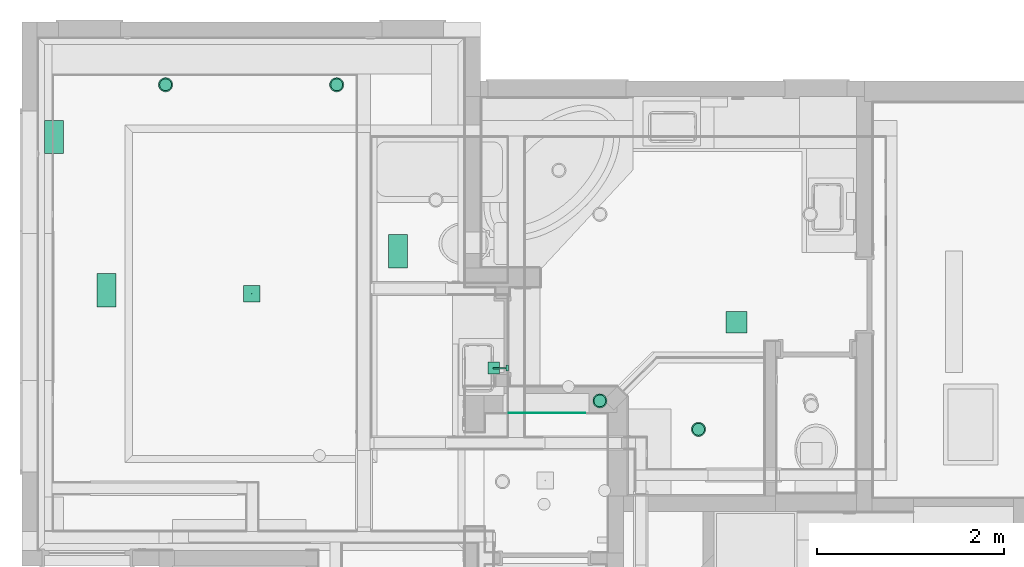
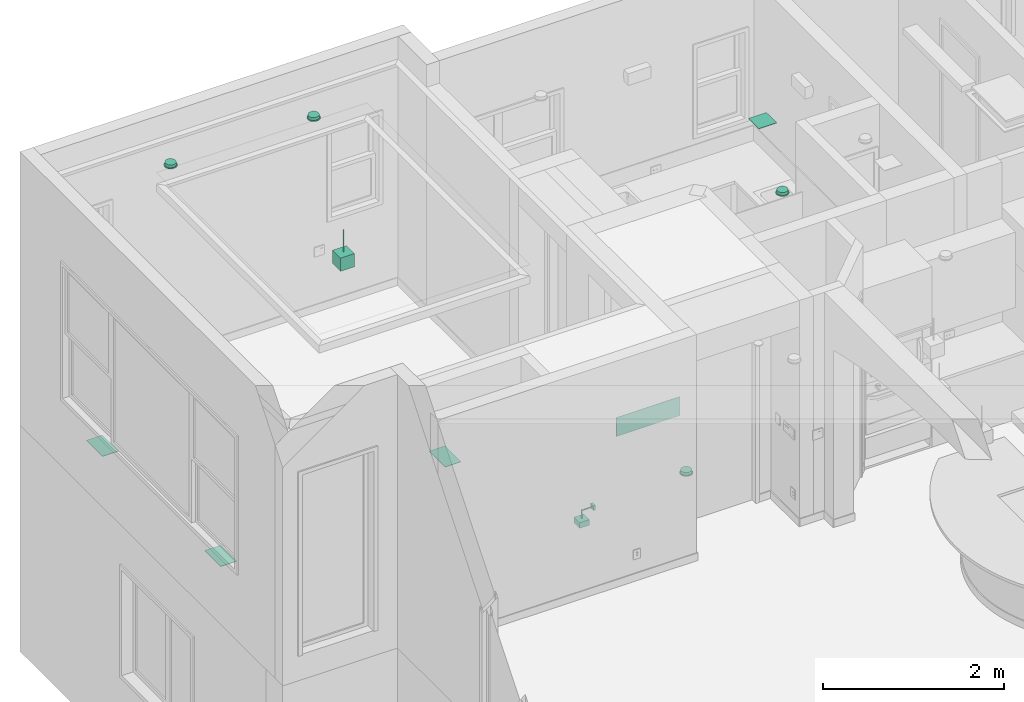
# One storey, part 40 of 60: 11 flow terminals.
"""IFC2X3 building model written with IfcOpenShell, lengths in feet."""

from ifc_helpers import new_model, entity, si_unit, converted_unit, direction, frame, frame_2d, origin, origin_2d_with_axis, place, context, subcontext, project, spatial, rectangle, extrude, faceted_brep, source, transform, mapped, material, material_list, type_object, type_shapes, element, save


model = new_model("IFC2X3")

# Units and contexts
model_context = context("Model", 3, precision=0.0001, world=origin(), true_north=direction((6.123031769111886e-17, 1.0)))
plan_context = context("Plan", 3, precision=0.0001, world=origin(), true_north=direction((6.123031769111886e-17, 1.0)))
body_context = subcontext(model_context, "Body", "Model", "MODEL_VIEW")
ifc_project = project(units=[converted_unit("LENGTHUNIT", "FOOT", entity("IfcLengthMeasure", 0.3048), si_unit("LENGTHUNIT", "METRE"), dimensions=[1, 0, 0, 0, 0, 0, 0]), converted_unit("AREAUNIT", "SQUARE FOOT", entity("IfcAreaMeasure", 0.09290304), si_unit("AREAUNIT", "SQUARE_METRE"), dimensions=[2, 0, 0, 0, 0, 0, 0]), converted_unit("PLANEANGLEUNIT", "DEGREE", entity("IfcPlaneAngleMeasure", 0.017453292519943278), si_unit("PLANEANGLEUNIT", "RADIAN"), dimensions=[0, 0, 0, 0, 0, 0, 0])], contexts=[model_context, plan_context])

# Site, building, storey
site_placement = place(None, origin())
site = spatial("IfcSite", under=ifc_project, at=site_placement, Name="Default", CompositionType="ELEMENT")
building_placement = place(site_placement, origin())
building = spatial("IfcBuilding", under=site, at=building_placement, CompositionType="ELEMENT")
storey_placement = place(building_placement, origin())
storey = spatial("IfcBuildingStorey", under=building, at=storey_placement, Name="First floor", CompositionType="ELEMENT", Elevation=0.0)

# Flow terminals
ifc_material_1 = material(Name="Default New Material")
ifc_material_2 = material(Name="Glass, White, High Luminance")
ifc_material_list = material_list([ifc_material_1, ifc_material_2])
light_fixture_type_1 = type_object("IfcLightFixtureType", Name="C_Spotlight Recessed:Light 2", PredefinedType="NOTDEFINED", material=ifc_material_list)
shared_shape_1 = source(origin(), body_context, "Body", "Brep", [
    faceted_brep([(-0.12499999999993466, 0.21650635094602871, 0.020833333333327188), (-0.17677669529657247, 0.17677669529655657, 0.020833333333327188), (-0.08333333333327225, 0.14433756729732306, 0.020833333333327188), (-0.04313650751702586, 0.1609876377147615, 0.020833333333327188), (-0.0647047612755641, 0.24148145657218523, 0.020833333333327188), (-0.11785113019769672, 0.11785113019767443, 0.020833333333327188), (-0.21650635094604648, 0.12499999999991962, 0.020833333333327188), (-0.1443375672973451, 0.08333333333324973, 0.020833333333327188), (-0.16098763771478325, 0.04313650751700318, 0.020833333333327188), (-0.2414814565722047, 0.06470476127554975, 0.020833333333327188), (-0.166666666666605, 0.0, 0.020833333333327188), (-0.24999999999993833, 0.0, 0.020833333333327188), (-0.16098763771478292, -0.043136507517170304, 0.020833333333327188), (-0.24148145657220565, -0.06470476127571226, 0.020833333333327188), (-0.14433756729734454, -0.08333333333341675, 0.020833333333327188), (-0.2165063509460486, -0.12500000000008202, 0.020833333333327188), (-0.117851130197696, -0.11785113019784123, 0.020833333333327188), (-0.1767766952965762, -0.17677669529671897, 0.020833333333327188), (-0.08333333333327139, -0.14433756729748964, 0.020833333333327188), (-0.12499999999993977, -0.21650635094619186, 0.020833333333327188), (-0.04313650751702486, -0.16098763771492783, 0.020833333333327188), (-0.06470476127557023, -0.24148145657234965, 0.020833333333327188), (0.0, -0.1666666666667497, 0.020833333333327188), (0.0, -0.25000000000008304, 0.020833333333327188), (0.04313650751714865, -0.1609876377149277, 0.020833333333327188), (0.06470476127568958, -0.24148145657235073, 0.020833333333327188), (0.08333333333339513, -0.1443375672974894, 0.020833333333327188), (0.12500000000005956, -0.21650635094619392, 0.020833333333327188), (0.11785113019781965, -0.11785113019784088, 0.020833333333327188), (0.1767766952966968, -0.1767766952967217, 0.020833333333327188), (0.14433756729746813, -0.0833333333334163, 0.020833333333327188), (0.21650635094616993, -0.12500000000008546, 0.020833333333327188), (0.24148145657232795, -0.06470476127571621, 0.020833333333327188), (0.16098763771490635, -0.0431365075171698, 0.020833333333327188), (0.2500000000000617, 0.0, 0.020833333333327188), (0.1666666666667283, 0.0, 0.020833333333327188), (0.24148145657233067, 0.06470476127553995, 0.020833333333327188), (0.16098763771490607, 0.04313650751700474, 0.020833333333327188), (0.21650635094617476, 0.12499999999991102, 0.020833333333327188), (0.14433756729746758, 0.08333333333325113, 0.020833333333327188), (0.17677669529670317, 0.17677669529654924, 0.020833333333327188), (0.1178511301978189, 0.11785113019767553, 0.020833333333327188), (0.1250000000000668, 0.21650635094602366, 0.020833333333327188), (0.08333333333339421, 0.14433756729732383, 0.020833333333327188), (0.06470476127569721, 0.2414814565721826, 0.020833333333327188), (0.04313650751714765, 0.16098763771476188, 0.020833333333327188), (0.0, 0.24999999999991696, 0.020833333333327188), (0.0, 0.1666666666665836, 0.020833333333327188), (-0.12499999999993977, -0.21650635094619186, 0.0), (-0.1767766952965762, -0.17677669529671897, 0.0), (-0.08333333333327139, -0.14433756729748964, 0.0), (-0.04313650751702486, -0.16098763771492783, 0.0), (-0.06470476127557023, -0.24148145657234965, 0.0), (-0.117851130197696, -0.11785113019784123, 0.0), (-0.2165063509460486, -0.12500000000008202, 0.0), (-0.14433756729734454, -0.08333333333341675, 0.0), (-0.16098763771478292, -0.043136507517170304, 0.0), (-0.24148145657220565, -0.06470476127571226, 0.0), (-0.166666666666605, 0.0, 0.0), (-0.24999999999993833, 0.0, 0.0), (-0.16098763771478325, 0.04313650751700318, 0.0), (-0.2414814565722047, 0.06470476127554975, 0.0), (-0.1443375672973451, 0.08333333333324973, 0.0), (-0.21650635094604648, 0.12499999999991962, 0.0), (-0.11785113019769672, 0.11785113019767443, 0.0), (-0.17677669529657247, 0.17677669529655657, 0.0), (-0.08333333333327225, 0.14433756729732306, 0.0), (-0.12499999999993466, 0.21650635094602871, 0.0), (-0.04313650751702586, 0.1609876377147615, 0.0), (-0.0647047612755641, 0.24148145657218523, 0.0), (0.0, 0.1666666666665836, 0.0), (0.0, 0.24999999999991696, 0.0), (0.04313650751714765, 0.16098763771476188, 0.0), (0.06470476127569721, 0.2414814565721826, 0.0), (0.08333333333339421, 0.14433756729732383, 0.0), (0.1250000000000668, 0.21650635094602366, 0.0), (0.1178511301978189, 0.11785113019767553, 0.0), (0.17677669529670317, 0.17677669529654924, 0.0), (0.14433756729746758, 0.08333333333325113, 0.0), (0.21650635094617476, 0.12499999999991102, 0.0), (0.24148145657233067, 0.06470476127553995, 0.0), (0.16098763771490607, 0.04313650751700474, 0.0), (0.2500000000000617, 0.0, 0.0), (0.1666666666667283, 0.0, 0.0), (0.24148145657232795, -0.06470476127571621, 0.0), (0.16098763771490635, -0.0431365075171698, 0.0), (0.21650635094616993, -0.12500000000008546, 0.0), (0.14433756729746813, -0.0833333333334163, 0.0), (0.1767766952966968, -0.1767766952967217, 0.0), (0.11785113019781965, -0.11785113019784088, 0.0), (0.12500000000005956, -0.21650635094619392, 0.0), (0.08333333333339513, -0.1443375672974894, 0.0), (0.06470476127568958, -0.24148145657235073, 0.0), (0.04313650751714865, -0.1609876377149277, 0.0), (0.0, -0.25000000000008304, 0.0), (0.0, -0.1666666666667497, 0.0)], [[[0, 1, 2]], [[0, 2, 3]], [[3, 4, 0]], [[2, 1, 5]], [[6, 5, 1]], [[7, 5, 6]], [[8, 7, 6]], [[8, 6, 9]], [[8, 9, 10]], [[10, 9, 11]], [[12, 10, 11]], [[12, 11, 13]], [[14, 12, 13]], [[14, 13, 15]], [[16, 14, 15]], [[15, 17, 16]], [[17, 18, 16]], [[18, 17, 19]], [[18, 19, 20]], [[21, 20, 19]], [[20, 21, 22]], [[22, 21, 23]], [[23, 24, 22]], [[24, 23, 25]], [[24, 25, 26]], [[27, 26, 25]], [[27, 28, 26]], [[27, 29, 28]], [[30, 28, 29]], [[31, 30, 29]], [[32, 30, 31]], [[33, 30, 32]], [[33, 32, 34]], [[34, 35, 33]], [[36, 35, 34]], [[36, 37, 35]], [[37, 36, 38]], [[39, 37, 38]], [[39, 38, 40]], [[39, 40, 41]], [[40, 42, 41]], [[41, 42, 43]], [[43, 42, 44]], [[44, 45, 43]], [[46, 45, 44]], [[4, 47, 46]], [[45, 46, 47]], [[4, 3, 47]], [[48, 49, 50]], [[48, 50, 51]], [[51, 52, 48]], [[50, 49, 53]], [[54, 53, 49]], [[55, 53, 54]], [[56, 55, 54]], [[56, 54, 57]], [[56, 57, 58]], [[58, 57, 59]], [[60, 58, 59]], [[60, 59, 61]], [[62, 60, 61]], [[62, 61, 63]], [[64, 62, 63]], [[63, 65, 64]], [[65, 66, 64]], [[66, 65, 67]], [[66, 67, 68]], [[69, 68, 67]], [[68, 69, 70]], [[70, 69, 71]], [[71, 72, 70]], [[72, 71, 73]], [[72, 73, 74]], [[75, 74, 73]], [[75, 76, 74]], [[75, 77, 76]], [[78, 76, 77]], [[79, 78, 77]], [[80, 78, 79]], [[81, 78, 80]], [[81, 80, 82]], [[82, 83, 81]], [[84, 83, 82]], [[84, 85, 83]], [[85, 84, 86]], [[87, 85, 86]], [[87, 86, 88]], [[87, 88, 89]], [[88, 90, 89]], [[89, 90, 91]], [[91, 90, 92]], [[92, 93, 91]], [[94, 93, 92]], [[52, 95, 94]], [[93, 94, 95]], [[52, 51, 95]], [[10, 58, 60, 8]], [[8, 60, 62, 7]], [[2, 5, 64, 66]], [[62, 64, 5, 7]], [[3, 2, 66, 68]], [[70, 47, 3, 68]], [[45, 72, 74, 43]], [[43, 74, 76, 41]], [[37, 39, 78, 81]], [[76, 78, 39, 41]], [[35, 37, 81, 83]], [[45, 47, 70, 72]], [[35, 83, 85, 33]], [[33, 85, 87, 30]], [[26, 28, 89, 91]], [[87, 89, 28, 30]], [[24, 26, 91, 93]], [[95, 22, 24, 93]], [[20, 51, 50, 18]], [[18, 50, 53, 16]], [[12, 14, 55, 56]], [[53, 55, 14, 16]], [[10, 12, 56, 58]], [[20, 22, 95, 51]], [[57, 13, 11, 59]], [[54, 15, 13, 57]], [[19, 17, 49, 48]], [[54, 49, 17, 15]], [[21, 19, 48, 52]], [[23, 21, 52, 94]], [[92, 25, 23, 94]], [[90, 27, 25, 92]], [[31, 29, 88, 86]], [[90, 88, 29, 27]], [[32, 31, 86, 84]], [[34, 32, 84, 82]], [[80, 36, 34, 82]], [[79, 38, 36, 80]], [[42, 40, 77, 75]], [[79, 77, 40, 38]], [[44, 42, 75, 73]], [[46, 44, 73, 71]], [[69, 4, 46, 71]], [[67, 0, 4, 69]], [[6, 1, 65, 63]], [[67, 65, 1, 0]], [[9, 6, 63, 61]], [[11, 9, 61, 59]]]),
    faceted_brep([(0.043136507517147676, -0.160987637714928, 0.020833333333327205), (0.08333333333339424, -0.14433756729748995, 0.020833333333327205), (0.11785113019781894, -0.11785113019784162, 0.020833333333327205), (0.14433756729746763, -0.08333333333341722, 0.020833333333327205), (0.16098763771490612, -0.043136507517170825, 0.020833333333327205), (0.16666666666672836, 0.0, 0.020833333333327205), (0.1609876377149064, 0.04313650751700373, 0.020833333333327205), (0.1443375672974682, 0.08333333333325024, 0.020833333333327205), (0.11785113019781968, 0.11785113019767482, 0.020833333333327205), (0.08333333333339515, 0.14433756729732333, 0.020833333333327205), (0.043136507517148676, 0.16098763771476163, 0.020833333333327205), (0.0, 0.16666666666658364, 0.020833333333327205), (-0.04313650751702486, 0.16098763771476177, 0.020833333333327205), (-0.08333333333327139, 0.14433756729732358, 0.020833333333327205), (-0.117851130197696, 0.11785113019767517, 0.020833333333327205), (-0.1443375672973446, 0.08333333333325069, 0.020833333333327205), (-0.16098763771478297, 0.043136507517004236, 0.020833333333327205), (-0.166666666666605, 0.0, 0.020833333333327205), (-0.1609876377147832, -0.04313650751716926, 0.020833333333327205), (-0.14433756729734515, -0.08333333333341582, 0.020833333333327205), (-0.11785113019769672, -0.11785113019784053, 0.020833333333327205), (-0.08333333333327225, -0.14433756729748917, 0.020833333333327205), (-0.04313650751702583, -0.1609876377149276, 0.020833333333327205), (0.0, -0.16666666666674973, 0.020833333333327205), (0.043136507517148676, 0.16098763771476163, 0.0), (0.08333333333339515, 0.14433756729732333, 0.0), (0.11785113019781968, 0.11785113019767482, 0.0), (0.1443375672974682, 0.08333333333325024, 0.0), (0.1609876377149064, 0.04313650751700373, 0.0), (0.16666666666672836, 0.0, 0.0), (0.16098763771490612, -0.043136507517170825, 0.0), (0.14433756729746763, -0.08333333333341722, 0.0), (0.11785113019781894, -0.11785113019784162, 0.0), (0.08333333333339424, -0.14433756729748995, 0.0), (0.043136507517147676, -0.160987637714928, 0.0), (0.0, -0.16666666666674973, 0.0), (-0.04313650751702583, -0.1609876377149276, 0.0), (-0.08333333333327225, -0.14433756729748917, 0.0), (-0.11785113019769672, -0.11785113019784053, 0.0), (-0.14433756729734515, -0.08333333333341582, 0.0), (-0.1609876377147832, -0.04313650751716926, 0.0), (-0.166666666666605, 0.0, 0.0), (-0.16098763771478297, 0.043136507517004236, 0.0), (-0.1443375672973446, 0.08333333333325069, 0.0), (-0.117851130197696, 0.11785113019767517, 0.0), (-0.08333333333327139, 0.14433756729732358, 0.0), (-0.04313650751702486, 0.16098763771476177, 0.0), (0.0, 0.16666666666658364, 0.0)], [[[0, 1, 2, 3, 4, 5, 6, 7, 8, 9, 10, 11, 12, 13, 14, 15, 16, 17, 18, 19, 20, 21, 22, 23]], [[24, 25, 26, 27, 28, 29, 30, 31, 32, 33, 34, 35, 36, 37, 38, 39, 40, 41, 42, 43, 44, 45, 46, 47]], [[40, 18, 17, 41]], [[39, 19, 18, 40]], [[21, 20, 38, 37]], [[39, 38, 20, 19]], [[22, 21, 37, 36]], [[23, 22, 36, 35]], [[34, 0, 23, 35]], [[33, 1, 0, 34]], [[3, 2, 32, 31]], [[33, 32, 2, 1]], [[4, 3, 31, 30]], [[5, 4, 30, 29]], [[28, 6, 5, 29]], [[27, 7, 6, 28]], [[9, 8, 26, 25]], [[27, 26, 8, 7]], [[10, 9, 25, 24]], [[11, 10, 24, 47]], [[46, 12, 11, 47]], [[45, 13, 12, 46]], [[15, 14, 44, 43]], [[45, 44, 14, 13]], [[16, 15, 43, 42]], [[17, 16, 42, 41]]]),
    faceted_brep([(0.0, -0.16666666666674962, -0.10416666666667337), (0.04313650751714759, -0.1609876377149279, -0.10416666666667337), (0.08333333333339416, -0.1443375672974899, -0.10416666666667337), (0.1178511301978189, -0.11785113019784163, -0.10416666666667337), (0.1443375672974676, -0.08333333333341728, -0.10416666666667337), (0.16098763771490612, -0.043136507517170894, -0.10416666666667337), (0.16666666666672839, 0.0, -0.10416666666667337), (0.16098763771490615, 0.04313650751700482, -0.10416666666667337), (0.14433756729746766, 0.08333333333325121, -0.10416666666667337), (0.11785113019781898, 0.11785113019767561, -0.10416666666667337), (0.0833333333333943, 0.14433756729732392, -0.10416666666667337), (0.04313650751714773, 0.16098763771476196, -0.10416666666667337), (0.0, 0.1666666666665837, -0.10416666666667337), (-0.043136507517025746, 0.16098763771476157, -0.10416666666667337), (-0.08333333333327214, 0.14433756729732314, -0.10416666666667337), (-0.11785113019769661, 0.11785113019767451, -0.10416666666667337), (-0.14433756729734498, 0.08333333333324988, -0.10416666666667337), (-0.16098763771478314, 0.04313650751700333, -0.10416666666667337), (-0.16666666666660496, 0.0, -0.10416666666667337), (-0.16098763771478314, -0.04313650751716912, -0.10416666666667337), (-0.1443375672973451, -0.08333333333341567, -0.10416666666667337), (-0.11785113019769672, -0.11785113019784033, -0.10416666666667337), (-0.08333333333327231, -0.14433756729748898, -0.10416666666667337), (-0.04313650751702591, -0.16098763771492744, -0.10416666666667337), (0.0, 0.20833333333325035, -0.12500000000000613), (0.053920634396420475, 0.20123454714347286, -0.12500000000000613), (0.10416666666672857, 0.18042195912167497, -0.12500000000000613), (0.14731391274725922, 0.14731391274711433, -0.12500000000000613), (0.18042195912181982, 0.1041666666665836, -0.12500000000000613), (0.2012345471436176, 0.053920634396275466, -0.12500000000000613), (0.20833333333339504, 0.0, -0.12500000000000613), (0.20123454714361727, -0.0539206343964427, -0.12500000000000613), (0.18042195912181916, -0.10416666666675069, -0.12500000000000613), (0.1473139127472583, -0.14731391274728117, -0.12500000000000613), (0.10416666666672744, -0.18042195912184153, -0.12500000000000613), (0.053920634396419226, -0.2012345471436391, -0.12500000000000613), (0.0, -0.20833333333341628, -0.12500000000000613), (-0.05392063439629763, -0.20123454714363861, -0.12500000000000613), (-0.10416666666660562, -0.18042195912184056, -0.12500000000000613), (-0.14731391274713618, -0.1473139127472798, -0.12500000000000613), (-0.18042195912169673, -0.10416666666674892, -0.12500000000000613), (-0.20123454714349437, -0.05392063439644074, -0.12500000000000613), (-0.2083333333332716, 0.0, -0.12500000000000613), (-0.20123454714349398, 0.053920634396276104, -0.12500000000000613), (-0.18042195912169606, 0.10416666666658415, -0.12500000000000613), (-0.1473139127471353, 0.14731391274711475, -0.12500000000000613), (-0.10416666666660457, 0.1804219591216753, -0.12500000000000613), (-0.05392063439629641, 0.20123454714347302, -0.12500000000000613), (-0.2012345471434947, -0.053920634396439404, -0.10416666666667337), (-0.20123454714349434, -0.053920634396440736, 0.0), (-0.20833333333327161, 0.0, 0.0), (-0.2083333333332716, 0.0, -0.10416666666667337), (-0.1804219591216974, -0.10416666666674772, -0.10416666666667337), (-0.1804219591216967, -0.10416666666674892, 0.0), (-0.10416666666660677, -0.18042195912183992, -0.10416666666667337), (-0.10416666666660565, -0.18042195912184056, 0.0), (-0.1473139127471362, -0.1473139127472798, 0.0), (-0.14731391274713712, -0.14731391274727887, -0.10416666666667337), (-0.053920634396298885, -0.20123454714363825, -0.10416666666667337), (-0.05392063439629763, -0.20123454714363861, 0.0), (0.0, -0.20833333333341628, -0.10416666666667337), (0.0, -0.20833333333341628, 0.0), (0.05392063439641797, -0.20123454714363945, -0.10416666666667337), (0.053920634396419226, -0.2012345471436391, 0.0), (0.10416666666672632, -0.1804219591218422, -0.10416666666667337), (0.10416666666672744, -0.18042195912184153, 0.0), (0.1804219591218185, -0.1041666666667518, -0.10416666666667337), (0.18042195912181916, -0.10416666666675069, 0.0), (0.1473139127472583, -0.14731391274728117, 0.0), (0.1473139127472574, -0.1473139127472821, -0.10416666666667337), (0.20123454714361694, -0.05392063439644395, -0.10416666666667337), (0.20123454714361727, -0.05392063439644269, 0.0), (0.20833333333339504, 0.0, -0.10416666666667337), (0.20833333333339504, 0.0, 0.0), (0.2012345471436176, 0.053920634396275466, -0.10416666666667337), (0.2012345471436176, 0.05392063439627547, 0.0), (0.18042195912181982, 0.1041666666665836, -0.10416666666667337), (0.18042195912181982, 0.1041666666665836, 0.0), (0.10416666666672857, 0.18042195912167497, -0.10416666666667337), (0.10416666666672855, 0.18042195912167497, 0.0), (0.14731391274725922, 0.14731391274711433, 0.0), (0.14731391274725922, 0.14731391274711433, -0.10416666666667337), (0.053920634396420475, 0.20123454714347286, -0.10416666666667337), (0.053920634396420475, 0.20123454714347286, 0.0), (0.0, 0.20833333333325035, -0.10416666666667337), (0.0, 0.20833333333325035, 0.0), (-0.05392063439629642, 0.20123454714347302, -0.10416666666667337), (-0.05392063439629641, 0.20123454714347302, 0.0), (-0.10416666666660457, 0.1804219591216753, -0.10416666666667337), (-0.10416666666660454, 0.1804219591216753, 0.0), (-0.18042195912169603, 0.10416666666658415, -0.10416666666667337), (-0.18042195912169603, 0.10416666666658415, 0.0), (-0.14731391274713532, 0.14731391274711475, 0.0), (-0.14731391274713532, 0.14731391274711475, -0.10416666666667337), (-0.20123454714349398, 0.053920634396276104, -0.10416666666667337), (-0.20123454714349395, 0.05392063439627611, 0.0), (-0.08333333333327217, 0.14433756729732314, 0.0), (-0.043136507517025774, 0.16098763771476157, 0.0), (-0.11785113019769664, 0.11785113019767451, 0.0), (-0.144337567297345, 0.08333333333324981, 0.0), (-0.16098763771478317, 0.04313650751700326, 0.0), (-0.16666666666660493, 0.0, 0.0), (-0.16098763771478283, -0.04313650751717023, 0.0), (-0.14433756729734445, -0.08333333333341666, 0.0), (-0.11785113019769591, -0.11785113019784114, 0.0), (-0.08333333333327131, -0.14433756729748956, 0.0), (-0.043136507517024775, -0.16098763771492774, 0.0), (0.0, -0.16666666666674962, 0.0), (0.04313650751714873, -0.1609876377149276, 0.0), (0.08333333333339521, -0.1443375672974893, 0.0), (0.11785113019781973, -0.1178511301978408, 0.0), (0.14433756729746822, -0.08333333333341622, 0.0), (0.16098763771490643, -0.04313650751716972, 0.0), (0.16666666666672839, 0.0, 0.0), (0.16098763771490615, 0.04313650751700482, 0.0), (0.14433756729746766, 0.08333333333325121, 0.0), (0.11785113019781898, 0.11785113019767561, 0.0), (0.0833333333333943, 0.14433756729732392, 0.0), (0.04313650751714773, 0.16098763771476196, 0.0), (0.0, 0.1666666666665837, 0.0)], [[[0, 1, 2, 3, 4, 5, 6, 7, 8, 9, 10, 11, 12, 13, 14, 15, 16, 17, 18, 19, 20, 21, 22, 23]], [[24, 25, 26, 27, 28, 29, 30, 31, 32, 33, 34, 35, 36, 37, 38, 39, 40, 41, 42, 43, 44, 45, 46, 47]], [[41, 48, 49, 50, 51, 42]], [[40, 52, 53, 49, 48, 41]], [[54, 55, 56, 57, 39, 38]], [[40, 39, 57, 56, 53, 52]], [[58, 59, 55, 54, 38, 37]], [[60, 61, 59, 58, 37, 36]], [[35, 62, 63, 61, 60, 36]], [[34, 64, 65, 63, 62, 35]], [[66, 67, 68, 69, 33, 32]], [[34, 33, 69, 68, 65, 64]], [[70, 71, 67, 66, 32, 31]], [[72, 73, 71, 70, 31, 30]], [[29, 74, 75, 73, 72, 30]], [[28, 76, 77, 75, 74, 29]], [[78, 79, 80, 81, 27, 26]], [[28, 27, 81, 80, 77, 76]], [[82, 83, 79, 78, 26, 25]], [[84, 85, 83, 82, 25, 24]], [[47, 86, 87, 85, 84, 24]], [[46, 88, 89, 87, 86, 47]], [[90, 91, 92, 93, 45, 44]], [[46, 45, 93, 92, 89, 88]], [[94, 95, 91, 90, 44, 43]], [[51, 50, 95, 94, 43, 42]], [[89, 92, 96]], [[89, 96, 97]], [[97, 87, 89]], [[96, 92, 98]], [[91, 98, 92]], [[99, 98, 91]], [[100, 99, 91]], [[100, 91, 95]], [[100, 95, 101]], [[101, 95, 50]], [[102, 101, 50]], [[102, 50, 49]], [[103, 102, 49]], [[103, 49, 53]], [[104, 103, 53]], [[53, 56, 104]], [[56, 105, 104]], [[105, 56, 55]], [[105, 55, 106]], [[59, 106, 55]], [[106, 59, 107]], [[107, 59, 61]], [[61, 108, 107]], [[108, 61, 63]], [[108, 63, 109]], [[65, 109, 63]], [[65, 110, 109]], [[65, 68, 110]], [[111, 110, 68]], [[67, 111, 68]], [[71, 111, 67]], [[112, 111, 71]], [[112, 71, 73]], [[73, 113, 112]], [[75, 113, 73]], [[75, 114, 113]], [[114, 75, 77]], [[115, 114, 77]], [[115, 77, 80]], [[115, 80, 116]], [[80, 79, 116]], [[116, 79, 117]], [[117, 79, 83]], [[83, 118, 117]], [[85, 118, 83]], [[87, 119, 85]], [[85, 119, 118]], [[87, 97, 119]], [[113, 6, 5, 112]], [[112, 5, 4, 111]], [[109, 110, 3, 2]], [[4, 3, 110, 111]], [[108, 109, 2, 1]], [[0, 107, 108, 1]], [[104, 105, 22, 21]], [[23, 22, 105, 106]], [[102, 103, 20, 19]], [[104, 21, 20, 103]], [[102, 19, 18, 101]], [[0, 23, 106, 107]], [[101, 18, 17, 100]], [[100, 17, 16, 99]], [[96, 98, 15, 14]], [[16, 15, 98, 99]], [[97, 96, 14, 13]], [[12, 119, 97, 13]], [[118, 11, 10, 117]], [[117, 10, 9, 116]], [[114, 115, 8, 7]], [[9, 8, 115, 116]], [[113, 114, 7, 6]], [[118, 119, 12, 11]]]),
])
type_shapes(light_fixture_type_1, [shared_shape_1])
for number, where, z_axis, x_axis, name in (
    (1, (1.87499999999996, 35.83333333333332, 20.229166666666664), (0.0, 0.0, -1.0), (1.0, 0.0, 0.0), "C_Spotlight Recessed:Light 2"),
    (2, (-10.812500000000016, 47.9166666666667, 20.666666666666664), (0.0, 0.0, -1.0), (0.0, -1.0, 0.0), "C_Spotlight Recessed:Light 2"),
    (3, (-16.812500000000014, 47.916666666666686, 20.666666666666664), (0.0, 0.0, -1.0), (0.0, -1.0, 0.0), "C_Spotlight Recessed:Light 2"),
    (4, (-1.5833333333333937, 36.83333333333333, 8.416666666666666), (0.0, 0.0, -1.0), (0.0, -1.0, 0.0), "C_Spotlight Recessed:Light 2"),
):
    element("IfcFlowTerminal", number, at=place(storey_placement, frame(where, z_axis=z_axis, x_axis=x_axis)), inside=storey, type_object=light_fixture_type_1, material=ifc_material_list, Name=name, ObjectType="C_Spotlight Recessed:Light 2", context=body_context, shape_type="MappedRepresentation", body=[
        mapped(shared_shape_1, transform((0.0, 0.0, 0.0), scale=1.0)),
    ])
light_fixture_type_2 = type_object("IfcLightFixtureType", Name="C_Ceiling Lamp:C_Ceiling Lamp", PredefinedType="NOTDEFINED", material=ifc_material_1)
shared_shape_2 = source(origin(), body_context, "Body", "SweptSolid", [
    extrude(rectangle(XDim=0.5833333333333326, YDim=0.5833333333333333, at=origin_2d_with_axis()), frame((0.0, 0.0, -20.229166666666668), z_axis=(0.0, 0.0, 1.0), x_axis=(0.0, 1.0, 0.0)), (0.0, 0.0, 1.0), 0.5833333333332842),
    extrude(rectangle(XDim=0.02140587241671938, YDim=0.02083333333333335, at=origin_2d_with_axis()), frame((0.0, 0.0, -19.64583333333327), z_axis=(0.0, 0.0, 1.0), x_axis=(0.0, 1.0, 0.0)), (0.0, 0.0, 1.0), 0.9791666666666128),
])
type_shapes(light_fixture_type_2, [shared_shape_2])
flow_terminal_1_placement = place(storey_placement, frame((-13.791666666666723, 40.58333333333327, 39.83333333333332)))
element("IfcFlowTerminal", 5, at=flow_terminal_1_placement, inside=storey, type_object=light_fixture_type_2, material=ifc_material_1, Name="C_Ceiling Lamp:C_Ceiling Lamp", ObjectType="C_Ceiling Lamp:C_Ceiling Lamp", context=body_context, shape_type="MappedRepresentation", body=[
    mapped(shared_shape_2, transform((0.0, 0.0, 0.0), scale=1.0)),
])
air_terminal_type_1 = type_object("IfcAirTerminalType", Name="C_Grill_Surface Based:Standard 2", PredefinedType="NOTDEFINED", material=ifc_material_1)
shared_shape_3 = source(origin(), body_context, "Body", "SweptSolid", [
    extrude(rectangle(XDim=0.6666666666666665, YDim=1.1666666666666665, at=frame_2d((-2.7755575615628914e-17, 0.0), x_axis=(1.0, 0.0))), frame((0.0, 0.0, 0.0), z_axis=(0.0, 0.0, 1.0), x_axis=(-1.0, 0.0, 0.0)), (0.0, 0.0, 1.0), 0.020833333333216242),
])
type_shapes(air_terminal_type_1, [shared_shape_3])
for number, where, z_axis, x_axis, name in (
    (6, (-18.875000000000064, 40.708333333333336, 8.416666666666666), (0.0, 0.0, -1.0), (1.0, 0.0, 0.0), "C_Grill_Surface Based:Standard 2"),
    (7, (-8.666666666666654, 42.08333333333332, 8.416666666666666), (0.0, 0.0, -1.0), (1.0, 0.0, 0.0), "C_Grill_Surface Based:Standard 2"),
):
    element("IfcFlowTerminal", number, at=place(storey_placement, frame(where, z_axis=z_axis, x_axis=x_axis)), inside=storey, type_object=air_terminal_type_1, material=ifc_material_1, Name=name, ObjectType="C_Grill_Surface Based:Standard 2", context=body_context, shape_type="MappedRepresentation", body=[
        mapped(shared_shape_3, transform((0.0, 0.0, 0.0), scale=1.0)),
    ])
flow_terminal_2_placement = place(storey_placement, frame((-20.72916666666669, 46.08331333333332, 10.666666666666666)))
element("IfcFlowTerminal", 8, at=flow_terminal_2_placement, inside=storey, type_object=air_terminal_type_1, material=ifc_material_1, Name="C_Grill_Surface Based:Standard 2", ObjectType="C_Grill_Surface Based:Standard 2", context=body_context, shape_type="MappedRepresentation", body=[
    mapped(shared_shape_3, transform((0.0, 0.0, 0.0), scale=1.0)),
])
air_terminal_type_2 = type_object("IfcAirTerminalType", Name="C_Grill_Surface Based:Standard 2", PredefinedType="NOTDEFINED", material=ifc_material_1)
shared_shape_4 = source(origin(), body_context, "Body", "SweptSolid", [
    extrude(rectangle(XDim=0.75, YDim=0.7499999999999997, at=origin_2d_with_axis()), frame((0.0, 0.0, 0.0), z_axis=(0.0, 0.0, 1.0), x_axis=(-1.0, 0.0, 0.0)), (0.0, 0.0, 1.0), 0.020833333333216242),
])
type_shapes(air_terminal_type_2, [shared_shape_4])
flow_terminal_3_placement = place(storey_placement, frame((3.208333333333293, 39.58298816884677, 20.666666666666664), z_axis=(0.0, 0.0, -1.0), x_axis=(1.0, 0.0, 0.0)))
element("IfcFlowTerminal", 9, at=flow_terminal_3_placement, inside=storey, type_object=air_terminal_type_2, material=ifc_material_1, Name="C_Grill_Surface Based:Standard 2", ObjectType="C_Grill_Surface Based:Standard 2", context=body_context, shape_type="MappedRepresentation", body=[
    mapped(shared_shape_4, transform((0.0, 0.0, 0.0), scale=1.0)),
])
light_fixture_type_3 = type_object("IfcLightFixtureType", Name="C_Sconce Downwards:33700 ICARIA White ceiling fan / Wood Blade", PredefinedType="NOTDEFINED", material=ifc_material_1)
shared_shape_5 = source(origin(), body_context, "Body", "Brep", [
    faceted_brep([(-0.10416666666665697, -0.10416666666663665, 0.08333333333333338), (0.10416666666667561, -0.10416666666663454, 0.08333333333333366), (0.1041666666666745, 0.10416666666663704, 0.0833333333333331), (-0.1041666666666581, 0.1041666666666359, 0.08333333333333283), (0.020833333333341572, 0.020833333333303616, 0.08333333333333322), (0.020833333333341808, -0.02083333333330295, 0.08333333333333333), (-0.020833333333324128, -0.020833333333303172, 0.08333333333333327), (-0.020833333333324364, 0.020833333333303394, 0.08333333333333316), (-0.10416666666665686, -0.10416666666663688, 0.0), (-0.10416666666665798, 0.10416666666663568, 0.0), (0.10416666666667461, 0.10416666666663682, 0.0), (0.10416666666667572, -0.10416666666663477, 0.0), (0.020833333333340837, 0.020833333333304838, 0.5416666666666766), (0.02083333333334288, -0.3541666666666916, 0.5416666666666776), (0.02083333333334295, -0.3541666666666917, 0.500000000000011), (0.02083333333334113, -0.02083333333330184, 0.5000000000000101), (-0.020833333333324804, -0.020833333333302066, 0.50000000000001), (-0.020833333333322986, -0.35416666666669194, 0.5000000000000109), (-0.020833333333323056, -0.35416666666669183, 0.5416666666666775), (-0.0208333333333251, 0.020833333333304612, 0.5416666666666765)], [[[0, 1, 2, 3], [4, 5, 6, 7]], [[8, 9, 10, 11]], [[0, 3, 9, 8]], [[3, 2, 10, 9]], [[2, 1, 11, 10]], [[1, 0, 8, 11]], [[12, 13, 14, 15, 5, 4]], [[16, 17, 18, 19, 7, 6]], [[15, 16, 6, 5]], [[19, 12, 4, 7]], [[13, 12, 19, 18]], [[14, 13, 18, 17]], [[15, 14, 17, 16]]]),
    faceted_brep([(0.20833333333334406, -0.3541666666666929, 0.31600321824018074), (0.2083333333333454, -0.6041666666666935, 0.3160032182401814), (-0.20833333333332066, -0.6041666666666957, 0.3160032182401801), (-0.20833333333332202, -0.35416666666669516, 0.3160032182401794), (0.20833333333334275, -0.35416666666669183, 0.7205016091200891), (-0.2083333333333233, -0.3541666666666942, 0.7205016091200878), (-0.20833333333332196, -0.6041666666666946, 0.7205016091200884), (0.20833333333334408, -0.6041666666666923, 0.7205016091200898)], [[[0, 1, 2, 3]], [[4, 5, 6, 7]], [[4, 7, 1, 0]], [[7, 6, 2, 1]], [[6, 5, 3, 2]], [[5, 4, 0, 3]]]),
])
type_shapes(light_fixture_type_3, [shared_shape_5])
flow_terminal_4_placement = place(storey_placement, frame((-4.791666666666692, 37.97916666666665, 7.333333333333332), z_axis=(-1.0, 0.0, 0.0), x_axis=(0.0, -1.0, 0.0)))
element("IfcFlowTerminal", 10, at=flow_terminal_4_placement, inside=storey, type_object=light_fixture_type_3, material=ifc_material_1, Name="C_Sconce Downwards:33700 ICARIA White ceiling fan / Wood Blade", ObjectType="C_Sconce Downwards:33700 ICARIA White ceiling fan / Wood Blade", context=body_context, shape_type="MappedRepresentation", body=[
    mapped(shared_shape_5, transform((0.0, 0.0, 0.0), scale=1.0)),
])
air_terminal_type_3 = type_object("IfcAirTerminalType", Name="C_Grill_Surface Based:Standard 2", PredefinedType="NOTDEFINED", material=ifc_material_1)
shared_shape_6 = source(origin(), body_context, "Body", "SweptSolid", [
    extrude(rectangle(XDim=2.6666666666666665, YDim=0.8333333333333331, at=origin_2d_with_axis()), frame((0.0, 0.0, 0.0), z_axis=(0.0, 0.0, 1.0), x_axis=(-1.0, 0.0, 0.0)), (0.0, 0.0, 1.0), 0.020833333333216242),
])
type_shapes(air_terminal_type_3, [shared_shape_6])
flow_terminal_5_placement = place(storey_placement, frame((-3.4366583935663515, 36.41666666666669, 11.791666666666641), z_axis=(0.0, -1.0, 0.0), x_axis=(-1.0, 0.0, 0.0)))
element("IfcFlowTerminal", 11, at=flow_terminal_5_placement, inside=storey, type_object=air_terminal_type_3, material=ifc_material_1, Name="C_Grill_Surface Based:Standard 2", ObjectType="C_Grill_Surface Based:Standard 2", context=body_context, shape_type="MappedRepresentation", body=[
    mapped(shared_shape_6, transform((0.0, 0.0, 0.0), scale=1.0)),
])

save(model, "model.ifc")
